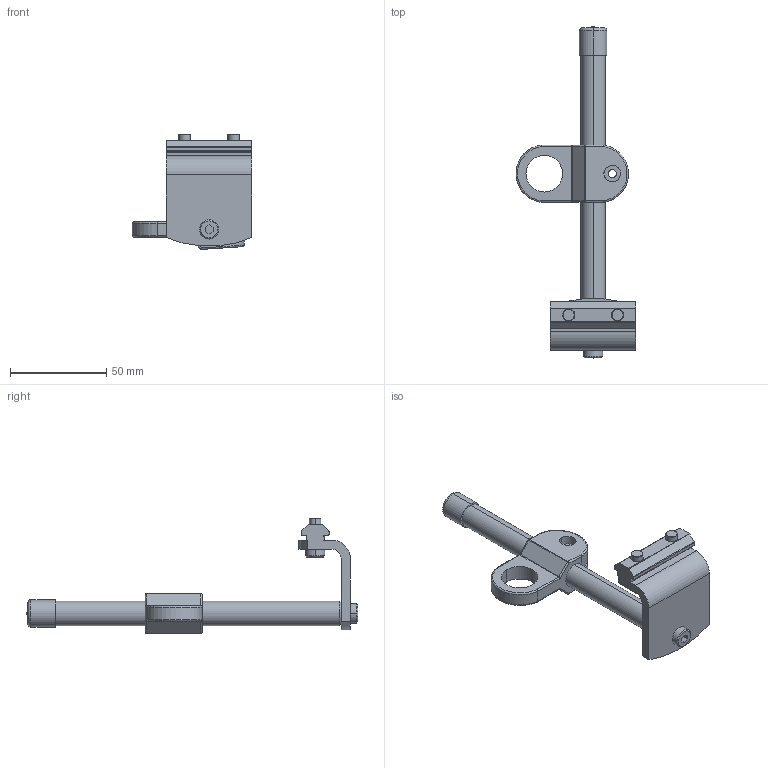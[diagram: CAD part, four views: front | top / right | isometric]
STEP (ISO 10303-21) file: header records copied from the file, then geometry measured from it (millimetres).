
FILE_DESCRIPTION((''),'2;1');
FILE_NAME('75M-PM_ASM','2016-10-17T',('jenni.wallner'),(''),'PRO/ENGINEER BY PARAMETRIC TECHNOLOGY CORPORATION, 2012420','PRO/ENGINEER BY PARAMETRIC TECHNOLOGY CORPORATION, 2012420','');
FILE_SCHEMA(('CONFIG_CONTROL_DESIGN'));
Length unit declared in the file: inch
Products named in the file (3): BRACKET_5; THROUGH_BEAM; 75M-PM_ASM
Assembly tree (2 placements, depth 2):
  75M-PM_ASM
    BRACKET_5
    THROUGH_BEAM
Bounding box: 62.3 x 172.58 x 59.72 mm (x, y, z)
Volume: 51551.5 mm3; surface area: 23904.1 mm2
Topology: 2 solids, 4 shells, 189 faces, 443 edges, 276 vertices
Faces by surface type: plane 76, cylinder 75, cone 20, bspline 10, torus 6, sphere 2
Entity records: 6213 total; most frequent: CARTESIAN_POINT 1781, DIRECTION 929, ORIENTED_EDGE 878, EDGE_CURVE 439, AXIS2_PLACEMENT_3D 346, VERTEX_POINT 276, VECTOR 237, LINE 237
